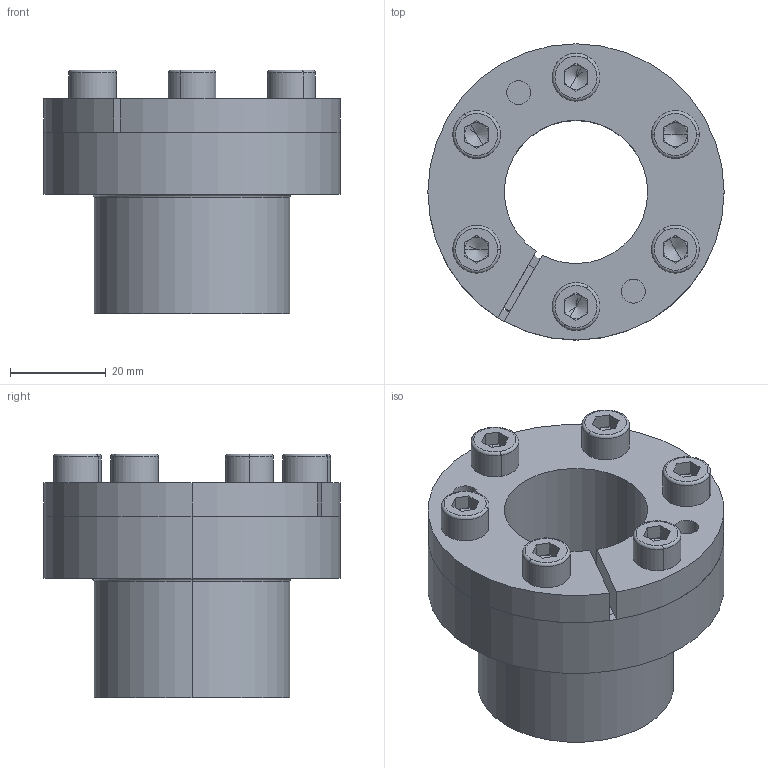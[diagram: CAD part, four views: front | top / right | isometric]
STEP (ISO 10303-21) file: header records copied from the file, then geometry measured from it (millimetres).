
FILE_DESCRIPTION (( 'STEP AP214' ), '1' );
FILE_NAME ('CONEX-B-30x41.step', '2013-04-04T12:41:45', ( 'Pc' ), ( '' ), 'SwSTEP 2.0', 'SolidWorks 2013', '' );
FILE_SCHEMA (( 'AUTOMOTIVE_DESIGN' ));
Length unit declared in the file: millimetre
Products named in the file (1): CONEX-B-30x41
Bounding box: 62 x 62 x 51.04 mm (x, y, z)
Volume: 54866.4 mm3; surface area: 36093.8 mm2
Topology: 9 solids, 9 shells, 230 faces, 530 edges, 318 vertices
Faces by surface type: plane 102, cylinder 68, torus 30, cone 30
Entity records: 9151 total; most frequent: DIRECTION 1226, CARTESIAN_POINT 1118, ORIENTED_EDGE 1036, EDGE_CURVE 518, AXIS2_PLACEMENT_3D 485, VERTEX_POINT 318, EDGE_LOOP 272, VECTOR 256
